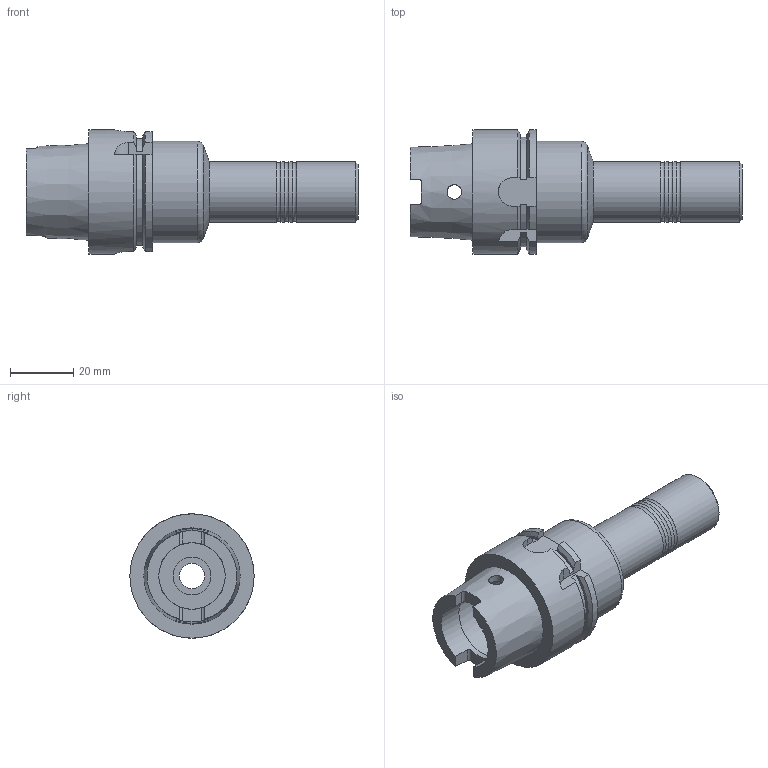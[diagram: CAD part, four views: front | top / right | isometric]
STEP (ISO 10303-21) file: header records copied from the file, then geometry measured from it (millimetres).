
FILE_DESCRIPTION( ( 'STEP AP203' ), '1' );
FILE_NAME( 'p:/temp/worker_6/3076_784/wkb82865883_no0/STEP/SCHUNK-0205104_SPF-S_HSK-A40_D12_L1_85_Einspanntiefe37_2_03.stp', ' ', ( ' ' ), ( ' ' ), 'PSStep 15.0.47', 'PARTsolutions', ' ' );
FILE_SCHEMA( ( 'CONFIG_CONTROL_DESIGN' ) );
Length unit declared in the file: millimetre
Products named in the file (1): _SCHUNK-0205104 SPF-S HSK-A40 D12 L1=85 Einspanntiefe37
Bounding box: 104.9 x 39.25 x 39.25 mm (x, y, z)
Volume: 45139.1 mm3; surface area: 15812.7 mm2
Topology: 1 solids, 1 shells, 76 faces, 205 edges, 132 vertices
Faces by surface type: plane 33, cylinder 28, cone 10, torus 5
Full cylindrical faces by diameter (mm): 4.6 x2, 8 x1, 12 x2, 19 x4, 21 x2, 25.565 x1, 32 x1, 39.25 x1
Entity records: 2575 total; most frequent: CARTESIAN_POINT 776, DIRECTION 353, ORIENTED_EDGE 346, EDGE_CURVE 173, AXIS2_PLACEMENT_3D 137, VERTEX_POINT 124, EDGE_LOOP 107, FACE_OUTER_BOUND 95
